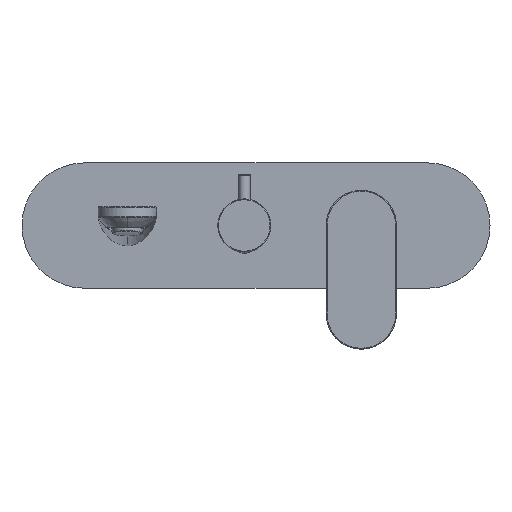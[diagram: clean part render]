
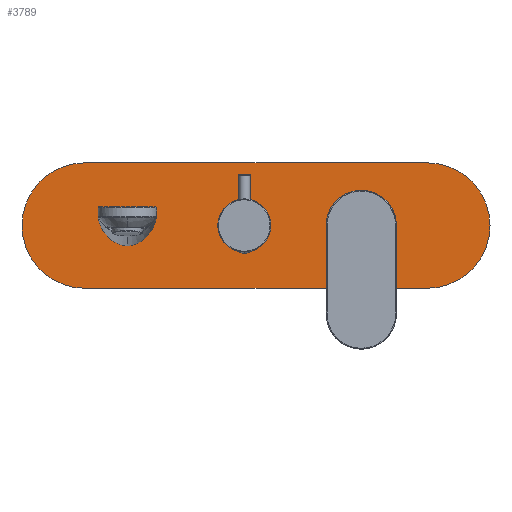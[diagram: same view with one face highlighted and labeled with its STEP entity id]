
A CAD part, top view. The second image highlights one B-rep face of the part: STEP entity #3789.
In plain terms, the highlighted planar face has unit normal (0, 0, 1).
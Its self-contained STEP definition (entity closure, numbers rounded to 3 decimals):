
#3672=DIRECTION('',(-1.,0.,0.));
#3673=VECTOR('',#3672,205.);
#3674=CARTESIAN_POINT('',(109.5,37.5,33.9));
#3675=LINE('',#3674,#3673);
#3676=CARTESIAN_POINT('',(109.5,0.,33.9));
#3677=DIRECTION('',(0.,0.,1.));
#3678=DIRECTION('',(0.,-1.,0.));
#3679=AXIS2_PLACEMENT_3D('',#3676,#3677,#3678);
#3681=DIRECTION('',(1.,0.,0.));
#3682=VECTOR('',#3681,205.);
#3683=CARTESIAN_POINT('',(-95.5,-37.5,33.9));
#3684=LINE('',#3683,#3682);
#3685=CARTESIAN_POINT('',(-95.5,0.,33.9));
#3686=DIRECTION('',(0.,0.,1.));
#3687=DIRECTION('',(0.,1.,0.));
#3688=AXIS2_PLACEMENT_3D('',#3685,#3686,#3687);
#3698=CARTESIAN_POINT('',(109.5,37.5,33.9));
#3699=CARTESIAN_POINT('',(-95.5,37.5,33.9));
#3700=VERTEX_POINT('',#3698);
#3701=VERTEX_POINT('',#3699);
#3702=CARTESIAN_POINT('',(-95.5,-37.5,33.9));
#3703=VERTEX_POINT('',#3702);
#3704=CARTESIAN_POINT('',(109.5,-37.5,33.9));
#3705=VERTEX_POINT('',#3704);
#3778=CARTESIAN_POINT('',(7.,0.,33.9));
#3779=DIRECTION('',(0.,0.,1.));
#3780=DIRECTION('',(-1.,0.,0.));
#3781=AXIS2_PLACEMENT_3D('',#3778,#3779,#3780);
#3782=PLANE('',#3781);
#3783=ORIENTED_EDGE('',*,*,#3730,.F.);
#3784=ORIENTED_EDGE('',*,*,#3745,.F.);
#3785=ORIENTED_EDGE('',*,*,#3759,.F.);
#3786=ORIENTED_EDGE('',*,*,#3772,.F.);
#3787=EDGE_LOOP('',(#3783,#3784,#3785,#3786));
#3788=FACE_OUTER_BOUND('',#3787,.F.);
#3789=ADVANCED_FACE('',(#3788),#3782,.T.);
#3680=CIRCLE('',#3679,37.5);
#3689=CIRCLE('',#3688,37.5);
#3730=EDGE_CURVE('',#3700,#3701,#3675,.T.);
#3745=EDGE_CURVE('',#3705,#3700,#3680,.T.);
#3759=EDGE_CURVE('',#3703,#3705,#3684,.T.);
#3772=EDGE_CURVE('',#3701,#3703,#3689,.T.);
